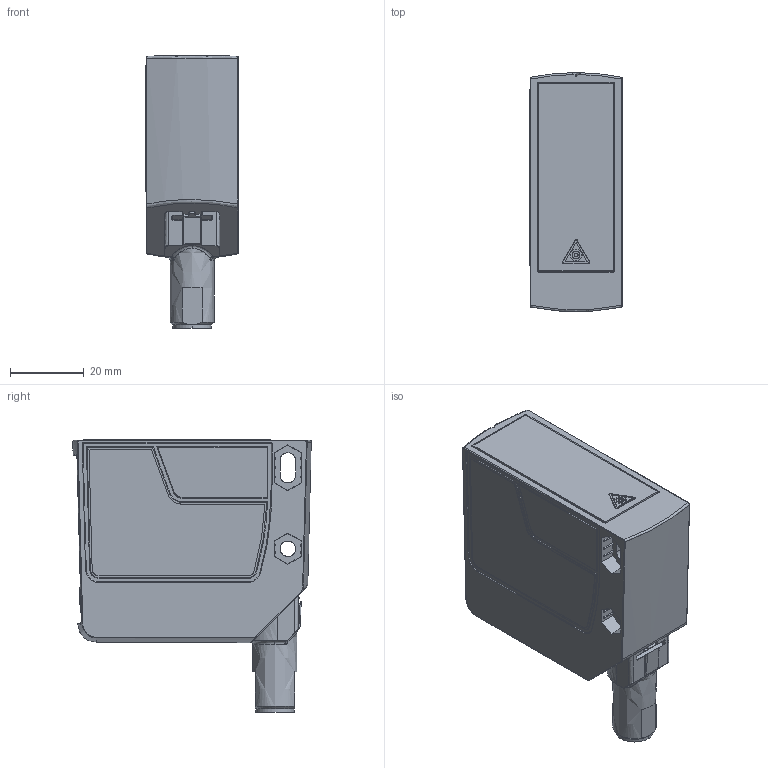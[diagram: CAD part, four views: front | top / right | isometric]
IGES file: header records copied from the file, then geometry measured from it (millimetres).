
Global section: file name: 3DCAD_ODS10_M12_plug_back.igs; native system: NX V2306; preprocessor: SIEMENS PLM Software NX2306.1700; date: 20240513.131722; units: millimetre
Bounding box: 25.05 x 64.84 x 74.21 mm (x, y, z)
Surface area: 16131.4 mm2 (no closed solid volume)
Topology: 0 solids, 0 shells, 1037 faces, 5834 edges, 5817 vertices
Faces by surface type: bspline 1037
